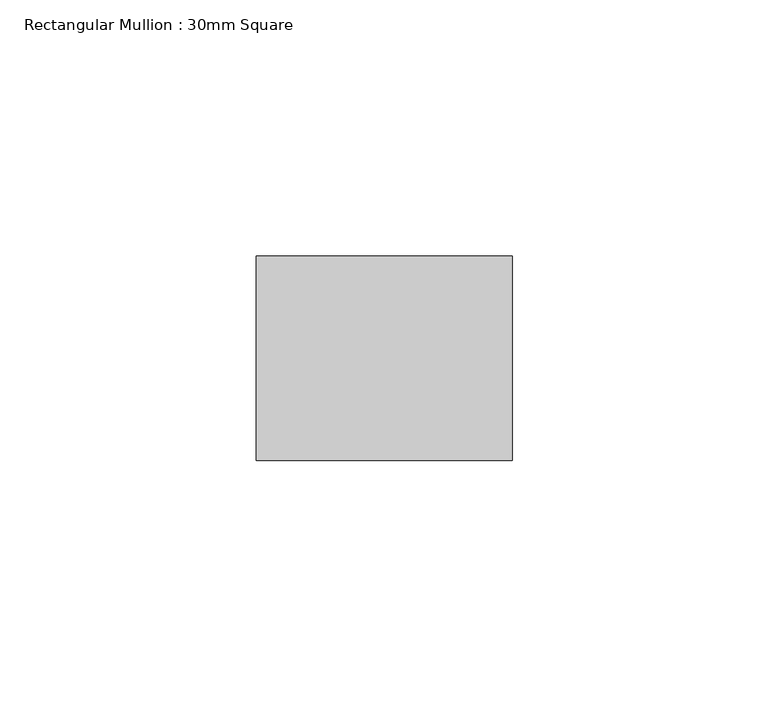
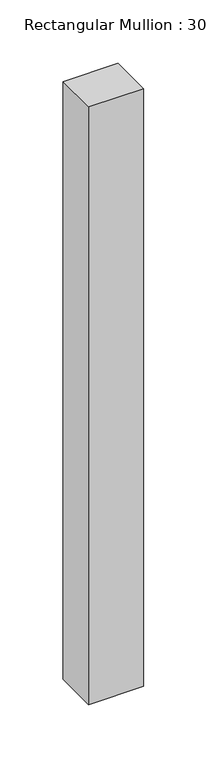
"""IFC4 building model written with IfcOpenShell, lengths in millimetres: member geometry, Rectangular Mullion : 30mm Square."""

from ifc_helpers import new_model, si_unit, frame, origin, place, context, project, spatial, polyline, outline, extrude, source, transform, mapped, element, save


def rectangular_mullion_30mm_square_0eecdd6a(model_context):
    return source(origin(), model_context, "Body", "SweptSolid", [
        extrude(outline(polyline([(0.0, 20.0), (0.0, -20.0), (-50.0, -20.0), (-50.0, 20.0), (0.0, 20.0)])), frame((0.0, 0.0, -575.0), z_axis=(0.0, 0.0, 1.0), x_axis=(1.0, 0.0, 0.0)), (0.0, 0.0, 1.0), 575.0),
    ])


if __name__ == "__main__":
    model = new_model("IFC4")
    model_context = context("Model", 3, world=origin())
    ifc_project = project(units=[si_unit("LENGTHUNIT", "METRE", prefix="MILLI")], contexts=[model_context])
    site = spatial("IfcSite", under=ifc_project)
    building = spatial("IfcBuilding", under=site)
    placement = place(None, origin())
    rectangular_mullion_30mm_square_shape = rectangular_mullion_30mm_square_0eecdd6a(model_context)
    element("IfcMember", 1, ObjectType="Rectangular Mullion : 30mm Square", at=placement, inside=building, context=model_context, shape_type="MappedRepresentation", body=[
        mapped(rectangular_mullion_30mm_square_shape, transform((0.0, 0.0, 0.0), x_axis=(1.0, 0.0, 0.0), y_axis=(0.0, 1.0, 0.0), z_axis=(0.0, 0.0, 1.0))),
    ])
    save(model, "model.ifc")
